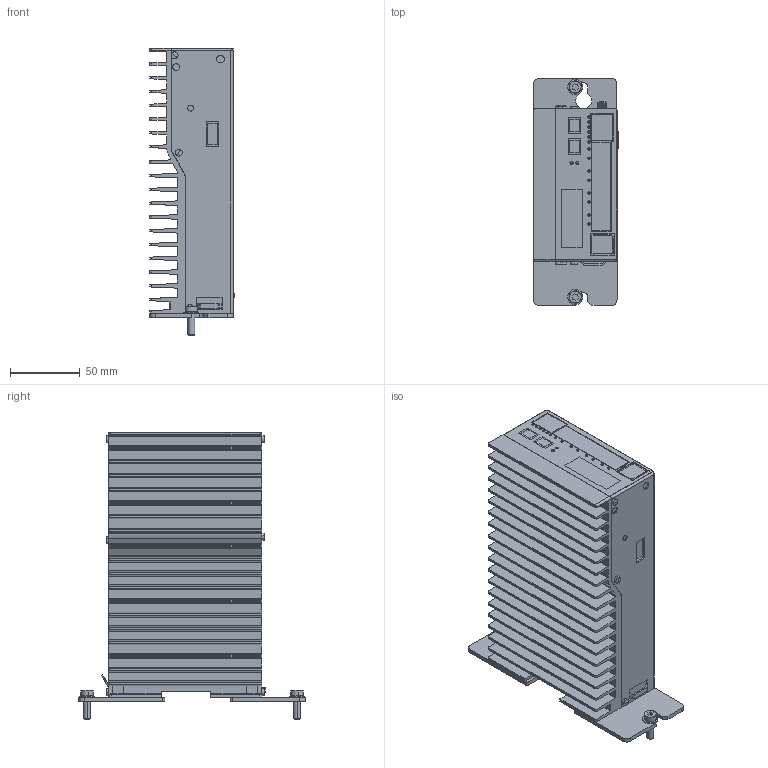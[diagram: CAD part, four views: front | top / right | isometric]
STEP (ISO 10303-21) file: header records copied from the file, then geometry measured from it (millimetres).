
FILE_DESCRIPTION (( 'STEP AP214' ), '1' );
FILE_NAME ('CP841 (01-20-004-841) Export20231122.STEP', '2023-11-22T16:41:26', ( 'Windows-Benutzer' ), ( '' ), 'SwSTEP 2.0', 'SolidWorks 2020', '' );
FILE_SCHEMA (( 'AUTOMOTIVE_DESIGN' ));
Length unit declared in the file: millimetre
Products named in the file (1): CP841 (01-20-004-841) Export20231122
Bounding box: 61.06 x 163 x 206.5 mm (x, y, z)
Volume: 1017320.1 mm3; surface area: 258575.9 mm2
Topology: 47 solids, 56 shells, 1201 faces, 3028 edges, 1944 vertices
Faces by surface type: plane 619, cylinder 482, cone 82, sphere 12, torus 4, bspline 2
Entity records: 50664 total; most frequent: CARTESIAN_POINT 7536, DIRECTION 6116, ORIENTED_EDGE 6024, EDGE_CURVE 3012, AXIS2_PLACEMENT_3D 2081, VECTOR 1954, LINE 1954, VERTEX_POINT 1944
